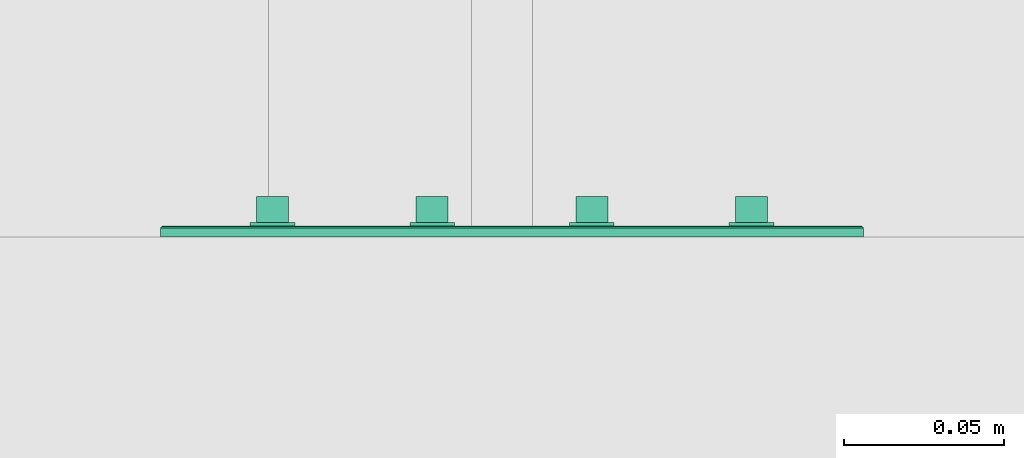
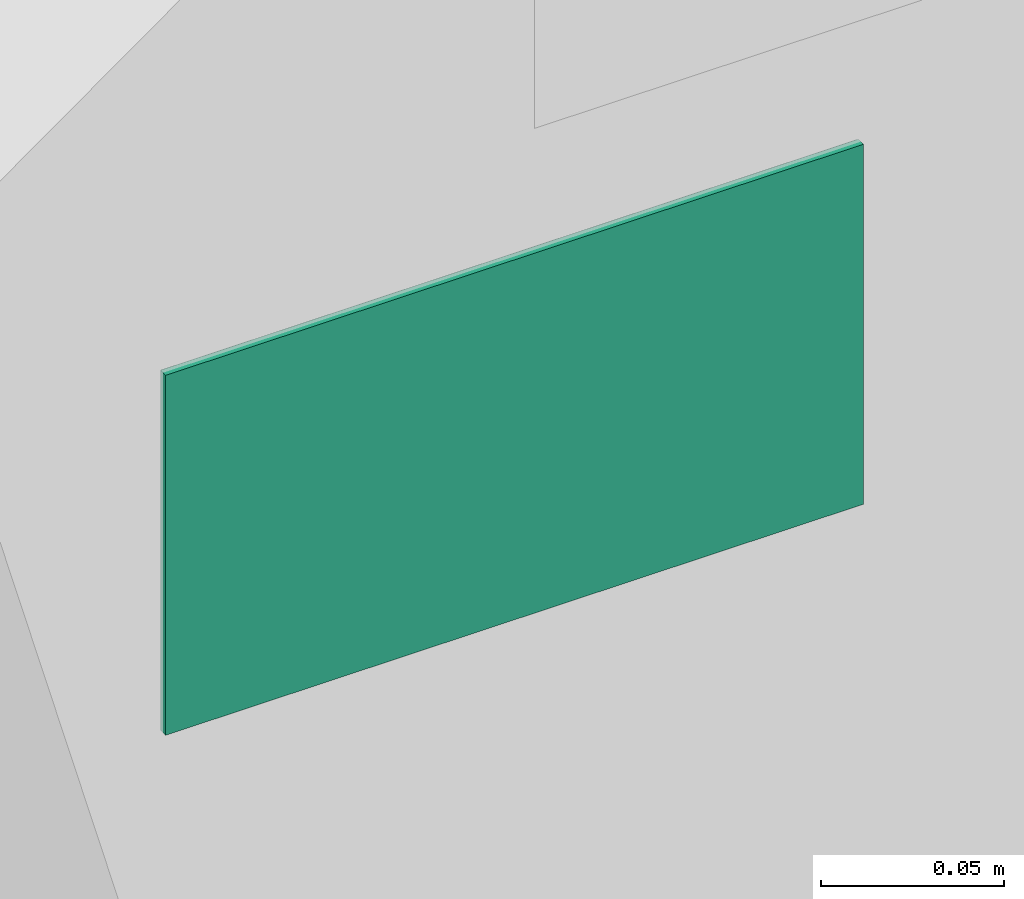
# One storey, part 17 of 103: 1 flow controller.
"""IFC2X3 building model written with IfcOpenShell, lengths in inches."""

from ifc_helpers import new_model, entity, si_unit, converted_unit, derived_unit, money_unit, direction, frame, origin_with_axes, place, context, subcontext, project, spatial, faceted_brep, source, transform, mapped, type_object, element, save


model = new_model("IFC2X3")

# Units and contexts
model_context = context("Model", 3, precision=0.00039370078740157, world=origin_with_axes(), true_north=direction((0.0, 1.0)))
plan_context = context("Plan", 3, precision=0.00039370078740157, world=origin_with_axes(), true_north=direction((0.0, 1.0)))
body_context = subcontext(model_context, "Body", "Model", "MODEL_VIEW")
ifc_project = project(units=[converted_unit("LENGTHUNIT", "INCH", entity("IfcPositiveLengthMeasure", 0.0254), si_unit("LENGTHUNIT", "METRE"), dimensions=[1, 0, 0, 0, 0, 0, 0]), converted_unit("AREAUNIT", "SQUARE_FOOT", entity("IfcPositiveLengthMeasure", 0.09290304), si_unit("AREAUNIT", "SQUARE_METRE"), dimensions=[2, 0, 0, 0, 0, 0, 0]), si_unit("PLANEANGLEUNIT", "RADIAN"), si_unit("SOLIDANGLEUNIT", "STERADIAN"), money_unit("USD"), converted_unit("TIMEUNIT", "Year", entity("IfcTimeMeasure", 31557600.0), si_unit("TIMEUNIT", "SECOND"), dimensions=[0, 0, 1, 0, 0, 0, 0]), si_unit("MASSUNIT", "GRAM", prefix="KILO"), si_unit("THERMODYNAMICTEMPERATUREUNIT", "DEGREE_CELSIUS"), si_unit("LUMINOUSINTENSITYUNIT", "LUMEN"), si_unit("ENERGYUNIT", "JOULE", prefix="MEGA"), derived_unit("SPECIFICHEATCAPACITYUNIT", [(si_unit("ENERGYUNIT", "JOULE"), 1), (si_unit("MASSUNIT", "GRAM", prefix="KILO"), -1), (si_unit("THERMODYNAMICTEMPERATUREUNIT", "KELVIN"), -1)])], contexts=[model_context, plan_context])

# Site, building, storey
site_placement = place(None, origin_with_axes())
site = spatial("IfcSite", under=ifc_project, at=site_placement, Name="Site", CompositionType="ELEMENT")
building_placement = place(site_placement, origin_with_axes())
building = spatial("IfcBuilding", under=site, at=building_placement, Name="Building", CompositionType="ELEMENT")
storey_placement = place(building_placement, frame((0.0, 0.0, 127.9999999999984), z_axis=(0.0, 0.0, 1.0), x_axis=(1.0, 0.0, 0.0)))
storey = spatial("IfcBuildingStorey", under=building, at=storey_placement, Name="Second Floor", CompositionType="ELEMENT", Elevation=128.0)

# Flow controller
switching_device_type = type_object("IfcSwitchingDeviceType", Name="Switch US", PredefinedType="NOTDEFINED")
shared_shape = source(origin_with_axes(), body_context, "Body", "Brep", [
    faceted_brep([(3.14960629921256, 0.0, -0.5905511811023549), (2.755905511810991, 0.0, -0.5905511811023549), (2.755905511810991, 0.0, 0.5905511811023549), (3.14960629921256, 0.0, 0.5905511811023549), (3.14960629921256, -0.1033464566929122, -0.5905511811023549), (2.755905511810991, -0.1033464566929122, -0.5905511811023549), (2.755905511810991, -0.1033464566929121, 0.157480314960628), (2.755905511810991, -0.4970472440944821, 0.1574803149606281), (2.755905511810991, -0.4970472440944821, 0.472440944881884), (2.755905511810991, -0.1033464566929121, 0.472440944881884), (2.755905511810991, -0.1033464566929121, 0.5905511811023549), (3.14960629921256, -0.103346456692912, 0.5905511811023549), (3.14960629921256, -0.1033464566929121, 0.472440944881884), (3.14960629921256, -0.4970472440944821, 0.472440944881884), (3.14960629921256, -0.4970472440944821, 0.1574803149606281), (3.14960629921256, -0.1033464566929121, 0.157480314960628)], [[[0, 1, 2, 3]], [[4, 5, 1, 0]], [[1, 5, 6, 7, 8, 9, 10, 2]], [[3, 2, 10, 11]], [[0, 3, 11, 12, 13, 14, 15, 4]], [[15, 6, 5, 4]], [[14, 7, 6, 15]], [[13, 8, 7, 14]], [[12, 9, 8, 13]], [[11, 10, 9, 12]]]),
    faceted_brep([(3.228346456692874, 0.0, -0.669291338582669), (3.228346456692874, -0.1771653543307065, -0.669291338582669), (2.677165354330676, -0.1771653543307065, -0.669291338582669), (2.677165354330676, 0.0, -0.669291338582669), (3.228346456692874, 0.0, 0.669291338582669), (3.228346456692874, -0.1771653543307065, 0.669291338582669), (2.677165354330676, -0.1771653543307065, 0.669291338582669), (3.14960629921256, -0.1771653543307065, -0.5905511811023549), (2.75590551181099, -0.1771653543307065, -0.5905511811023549), (2.75590551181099, -0.1771653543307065, 0.5905511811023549), (3.14960629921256, -0.1771653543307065, 0.5905511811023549), (2.677165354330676, 0.0, 0.669291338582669), (3.14960629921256, 0.0, -0.5905511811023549), (3.14960629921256, 0.0, 0.5905511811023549), (2.75590551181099, 0.0, 0.5905511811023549), (2.75590551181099, 0.0, -0.5905511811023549)], [[[0, 1, 2, 3]], [[4, 5, 1, 0]], [[1, 5, 6, 2], [7, 8, 9, 10]], [[3, 2, 6, 11]], [[0, 3, 11, 4], [12, 13, 14, 15]], [[11, 6, 5, 4]], [[15, 8, 7, 12]], [[14, 9, 8, 15]], [[13, 10, 9, 14]], [[12, 7, 10, 13]]]),
    faceted_brep([(1.968503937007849, -0.103346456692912, 2.362204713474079), (4.330708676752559, -0.103346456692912, 2.362204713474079), (4.330708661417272, 0.0, 2.36220472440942), (1.968503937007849, 0.0, 2.36220472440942), (1.968503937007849, -0.1122624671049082, 2.361030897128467), (4.329534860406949, -0.1122624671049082, 2.361030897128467), (4.330708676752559, -0.1033464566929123, -2.36220473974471), (4.330708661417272, 0.0, -2.36220472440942), (1.968503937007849, 0.0, -2.36220472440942), (2.677165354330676, 0.0, -0.669291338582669), (3.228346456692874, 0.0, -0.669291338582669), (3.228346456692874, 0.0, 0.669291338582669), (2.677165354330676, 0.0, 0.669291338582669), (1.968503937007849, -0.1033464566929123, -2.36220473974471), (1.968503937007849, -0.1122624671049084, -2.361030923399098), (1.968503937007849, -0.1277054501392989, -2.352114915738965), (1.968503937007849, -0.1366214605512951, -2.336671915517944), (1.968503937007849, -0.1377952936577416, -2.327755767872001), (1.968503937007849, -0.1377952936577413, 2.32775574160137), (1.968503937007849, -0.1366214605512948, 2.336671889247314), (1.968503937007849, -0.1277054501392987, 2.352114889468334), (4.320618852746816, -0.1277054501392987, 2.352114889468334), (4.329534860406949, -0.1122624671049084, -2.361030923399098), (2.677165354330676, -0.1377952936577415, -0.669291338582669), (3.228346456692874, -0.1377952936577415, -0.669291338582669), (3.228346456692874, -0.1377952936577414, 0.669291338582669), (2.677165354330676, -0.1377952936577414, 0.669291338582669), (4.320618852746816, -0.1277054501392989, -2.352114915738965), (4.305175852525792, -0.1366214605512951, -2.336671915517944), (4.296259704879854, -0.1377952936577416, -2.327755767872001), (4.296259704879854, -0.1377952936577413, 2.32775574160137), (4.305175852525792, -0.1366214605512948, 2.336671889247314)], [[[0, 1, 2, 3]], [[4, 5, 1, 0]], [[6, 7, 2, 1]], [[3, 2, 7, 8], [9, 10, 11, 12]], [[8, 13, 14, 15, 16, 17, 18, 19, 20, 4, 0, 3]], [[20, 21, 5, 4]], [[22, 6, 1, 5]], [[8, 7, 6, 13]], [[10, 9, 23, 24]], [[11, 10, 24, 25]], [[12, 11, 25, 26]], [[9, 12, 26, 23]], [[13, 6, 22, 14]], [[14, 22, 27, 15]], [[15, 27, 28, 16]], [[16, 28, 29, 17]], [[17, 29, 30, 18], [25, 24, 23, 26]], [[18, 30, 31, 19]], [[19, 31, 21, 20]], [[27, 22, 5, 21]], [[28, 27, 21, 31]], [[29, 28, 31, 30]]]),
    faceted_brep([(1.18110236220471, 0.0, -0.5905511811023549), (0.7874015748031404, 0.0, -0.5905511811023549), (0.7874015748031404, 0.0, 0.5905511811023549), (1.18110236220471, 0.0, 0.5905511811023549), (1.18110236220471, -0.1033464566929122, -0.5905511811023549), (0.7874015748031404, -0.1033464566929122, -0.5905511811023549), (0.7874015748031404, -0.1033464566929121, 0.157480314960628), (0.7874015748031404, -0.4970472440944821, 0.1574803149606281), (0.7874015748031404, -0.4970472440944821, 0.472440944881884), (0.7874015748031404, -0.1033464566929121, 0.472440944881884), (0.7874015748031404, -0.1033464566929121, 0.5905511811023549), (1.18110236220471, -0.103346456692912, 0.5905511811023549), (1.18110236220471, -0.1033464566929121, 0.472440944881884), (1.18110236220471, -0.4970472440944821, 0.472440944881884), (1.18110236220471, -0.4970472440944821, 0.1574803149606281), (1.18110236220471, -0.1033464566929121, 0.157480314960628)], [[[0, 1, 2, 3]], [[4, 5, 1, 0]], [[1, 5, 6, 7, 8, 9, 10, 2]], [[3, 2, 10, 11]], [[0, 3, 11, 12, 13, 14, 15, 4]], [[15, 6, 5, 4]], [[14, 7, 6, 15]], [[13, 8, 7, 14]], [[12, 9, 8, 13]], [[11, 10, 9, 12]]]),
    faceted_brep([(1.259842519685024, 0.0, -0.669291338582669), (1.259842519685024, -0.1771653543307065, -0.669291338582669), (0.7086614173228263, -0.1771653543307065, -0.669291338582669), (0.7086614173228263, 0.0, -0.669291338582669), (1.259842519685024, 0.0, 0.669291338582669), (1.259842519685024, -0.1771653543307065, 0.669291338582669), (0.7086614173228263, -0.1771653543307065, 0.669291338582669), (1.18110236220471, -0.1771653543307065, -0.5905511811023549), (0.7874015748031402, -0.1771653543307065, -0.5905511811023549), (0.7874015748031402, -0.1771653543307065, 0.5905511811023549), (1.18110236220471, -0.1771653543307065, 0.5905511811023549), (0.7086614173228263, 0.0, 0.669291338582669), (1.18110236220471, 0.0, -0.5905511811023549), (1.18110236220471, 0.0, 0.5905511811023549), (0.7874015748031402, 0.0, 0.5905511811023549), (0.7874015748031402, 0.0, -0.5905511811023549)], [[[0, 1, 2, 3]], [[4, 5, 1, 0]], [[1, 5, 6, 2], [7, 8, 9, 10]], [[3, 2, 6, 11]], [[0, 3, 11, 4], [12, 13, 14, 15]], [[11, 6, 5, 4]], [[15, 8, 7, 12]], [[14, 9, 8, 15]], [[13, 10, 9, 14]], [[12, 7, 10, 13]]]),
    faceted_brep([(1.968503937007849, 0.0, -2.36220472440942), (0.0, 0.0, -2.36220472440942), (0.0, 0.0, 2.36220472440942), (1.968503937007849, 0.0, 2.36220472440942), (0.7086614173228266, 0.0, 0.669291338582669), (0.7086614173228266, 0.0, -0.669291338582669), (1.259842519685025, 0.0, -0.669291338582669), (1.259842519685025, 0.0, 0.669291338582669), (1.968503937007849, -0.1033464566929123, -2.36220473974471), (0.0, -0.1033464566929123, -2.36220473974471), (0.0, -0.1277054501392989, -2.352114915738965), (0.0, -0.1366214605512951, -2.336671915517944), (0.0, -0.1377952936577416, -2.327755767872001), (0.0, -0.1377952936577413, 2.32775574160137), (0.0, -0.1366214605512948, 2.336671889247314), (0.0, -0.1277054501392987, 2.352114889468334), (0.0, -0.1122624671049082, 2.361030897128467), (0.0, -0.103346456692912, 2.362204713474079), (0.0, -0.1122624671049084, -2.361030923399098), (1.968503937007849, -0.103346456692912, 2.362204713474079), (1.968503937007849, -0.1122624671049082, 2.361030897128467), (1.968503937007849, -0.1277054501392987, 2.352114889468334), (1.968503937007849, -0.1366214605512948, 2.336671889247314), (1.968503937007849, -0.1377952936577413, 2.32775574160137), (1.968503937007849, -0.1377952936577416, -2.327755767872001), (1.968503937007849, -0.1366214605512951, -2.336671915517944), (1.968503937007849, -0.1277054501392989, -2.352114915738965), (1.968503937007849, -0.1122624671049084, -2.361030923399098), (0.7086614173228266, -0.1377952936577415, -0.669291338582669), (0.7086614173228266, -0.1377952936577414, 0.669291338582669), (1.259842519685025, -0.1377952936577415, -0.669291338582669), (1.259842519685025, -0.1377952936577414, 0.669291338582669)], [[[0, 1, 2, 3], [4, 5, 6, 7]], [[8, 9, 1, 0]], [[10, 11, 12, 13, 14, 15, 16, 17, 2, 1, 9, 18]], [[3, 2, 17, 19]], [[19, 20, 21, 22, 23, 24, 25, 26, 27, 8, 0, 3]], [[28, 5, 4, 29]], [[30, 6, 5, 28]], [[31, 7, 6, 30]], [[29, 4, 7, 31]], [[27, 18, 9, 8]], [[25, 11, 10, 26]], [[24, 12, 11, 25]], [[23, 13, 12, 24], [29, 31, 30, 28]], [[22, 14, 13, 23]], [[21, 15, 14, 22]], [[20, 16, 15, 21]], [[19, 17, 16, 20]], [[26, 10, 18, 27]]]),
    faceted_brep([(-0.7874015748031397, 0.0, -0.5905511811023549), (-1.18110236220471, 0.0, -0.5905511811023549), (-1.18110236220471, 0.0, 0.5905511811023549), (-0.7874015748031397, 0.0, 0.5905511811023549), (-0.7874015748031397, -0.1033464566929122, -0.5905511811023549), (-1.18110236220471, -0.1033464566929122, -0.5905511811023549), (-1.18110236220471, -0.1033464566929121, 0.157480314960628), (-1.18110236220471, -0.4970472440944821, 0.1574803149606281), (-1.18110236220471, -0.4970472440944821, 0.472440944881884), (-1.18110236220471, -0.1033464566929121, 0.472440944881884), (-1.18110236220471, -0.1033464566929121, 0.5905511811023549), (-0.7874015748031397, -0.103346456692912, 0.5905511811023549), (-0.7874015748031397, -0.1033464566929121, 0.472440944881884), (-0.7874015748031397, -0.4970472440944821, 0.472440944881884), (-0.7874015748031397, -0.4970472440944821, 0.1574803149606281), (-0.7874015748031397, -0.1033464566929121, 0.157480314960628)], [[[0, 1, 2, 3]], [[4, 5, 1, 0]], [[1, 5, 6, 7, 8, 9, 10, 2]], [[3, 2, 10, 11]], [[0, 3, 11, 12, 13, 14, 15, 4]], [[15, 6, 5, 4]], [[14, 7, 6, 15]], [[13, 8, 7, 14]], [[12, 9, 8, 13]], [[11, 10, 9, 12]]]),
    faceted_brep([(-0.7086614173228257, 0.0, -0.669291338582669), (-0.7086614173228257, -0.1771653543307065, -0.669291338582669), (-1.259842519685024, -0.1771653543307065, -0.669291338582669), (-1.259842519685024, 0.0, -0.669291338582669), (-0.7086614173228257, 0.0, 0.669291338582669), (-0.7086614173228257, -0.1771653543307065, 0.669291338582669), (-1.259842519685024, -0.1771653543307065, 0.669291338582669), (-0.7874015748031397, -0.1771653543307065, -0.5905511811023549), (-1.18110236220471, -0.1771653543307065, -0.5905511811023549), (-1.18110236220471, -0.1771653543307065, 0.5905511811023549), (-0.7874015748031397, -0.1771653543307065, 0.5905511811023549), (-1.259842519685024, 0.0, 0.669291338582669), (-0.7874015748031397, 0.0, -0.5905511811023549), (-0.7874015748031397, 0.0, 0.5905511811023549), (-1.18110236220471, 0.0, 0.5905511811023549), (-1.18110236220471, 0.0, -0.5905511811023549)], [[[0, 1, 2, 3]], [[4, 5, 1, 0]], [[1, 5, 6, 2], [7, 8, 9, 10]], [[3, 2, 6, 11]], [[0, 3, 11, 4], [12, 13, 14, 15]], [[11, 6, 5, 4]], [[15, 8, 7, 12]], [[14, 9, 8, 15]], [[13, 10, 9, 14]], [[12, 7, 10, 13]]]),
    faceted_brep([(0.0, 0.0, -2.36220472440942), (-1.968503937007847, 0.0, -2.36220472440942), (-1.968503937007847, 0.0, 2.36220472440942), (0.0, 0.0, 2.36220472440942), (-1.259842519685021, 0.0, 0.669291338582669), (-1.259842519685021, 0.0, -0.669291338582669), (-0.7086614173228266, 0.0, -0.669291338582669), (-0.7086614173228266, 0.0, 0.669291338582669), (0.0, -0.1033464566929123, -2.36220473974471), (-1.968503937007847, -0.1033464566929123, -2.36220473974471), (-1.968503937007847, -0.1277054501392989, -2.352114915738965), (-1.968503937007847, -0.1366214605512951, -2.336671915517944), (-1.968503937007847, -0.1377952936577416, -2.327755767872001), (-1.968503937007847, -0.1377952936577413, 2.32775574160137), (-1.968503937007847, -0.1366214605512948, 2.336671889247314), (-1.968503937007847, -0.1277054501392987, 2.352114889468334), (-1.968503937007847, -0.1122624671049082, 2.361030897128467), (-1.968503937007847, -0.103346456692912, 2.362204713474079), (-1.968503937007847, -0.1122624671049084, -2.361030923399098), (0.0, -0.103346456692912, 2.362204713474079), (0.0, -0.1122624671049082, 2.361030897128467), (0.0, -0.1277054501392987, 2.352114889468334), (0.0, -0.1366214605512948, 2.336671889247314), (0.0, -0.1377952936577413, 2.32775574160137), (0.0, -0.1377952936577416, -2.327755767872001), (0.0, -0.1366214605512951, -2.336671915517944), (0.0, -0.1277054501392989, -2.352114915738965), (0.0, -0.1122624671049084, -2.361030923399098), (-1.259842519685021, -0.1377952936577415, -0.669291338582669), (-1.259842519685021, -0.1377952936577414, 0.669291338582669), (-0.7086614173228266, -0.1377952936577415, -0.669291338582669), (-0.7086614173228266, -0.1377952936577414, 0.669291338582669)], [[[0, 1, 2, 3], [4, 5, 6, 7]], [[8, 9, 1, 0]], [[10, 11, 12, 13, 14, 15, 16, 17, 2, 1, 9, 18]], [[3, 2, 17, 19]], [[19, 20, 21, 22, 23, 24, 25, 26, 27, 8, 0, 3]], [[28, 5, 4, 29]], [[30, 6, 5, 28]], [[31, 7, 6, 30]], [[29, 4, 7, 31]], [[27, 18, 9, 8]], [[25, 11, 10, 26]], [[24, 12, 11, 25]], [[23, 13, 12, 24], [29, 31, 30, 28]], [[22, 14, 13, 23]], [[21, 15, 14, 22]], [[20, 16, 15, 21]], [[19, 17, 16, 20]], [[26, 10, 18, 27]]]),
    faceted_brep([(-2.755905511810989, 0.0, -0.5905511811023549), (-3.14960629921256, 0.0, -0.5905511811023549), (-3.14960629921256, 0.0, 0.5905511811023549), (-2.755905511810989, 0.0, 0.5905511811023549), (-2.755905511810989, -0.1033464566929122, -0.5905511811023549), (-3.14960629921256, -0.1033464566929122, -0.5905511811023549), (-3.14960629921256, -0.1033464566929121, 0.157480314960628), (-3.14960629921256, -0.4970472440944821, 0.1574803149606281), (-3.14960629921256, -0.4970472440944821, 0.472440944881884), (-3.14960629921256, -0.1033464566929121, 0.472440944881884), (-3.14960629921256, -0.1033464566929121, 0.5905511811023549), (-2.755905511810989, -0.103346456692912, 0.5905511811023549), (-2.755905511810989, -0.1033464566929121, 0.472440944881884), (-2.755905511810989, -0.4970472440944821, 0.472440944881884), (-2.755905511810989, -0.4970472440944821, 0.1574803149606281), (-2.755905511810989, -0.1033464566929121, 0.157480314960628)], [[[0, 1, 2, 3]], [[4, 5, 1, 0]], [[1, 5, 6, 7, 8, 9, 10, 2]], [[3, 2, 10, 11]], [[0, 3, 11, 12, 13, 14, 15, 4]], [[15, 6, 5, 4]], [[14, 7, 6, 15]], [[13, 8, 7, 14]], [[12, 9, 8, 13]], [[11, 10, 9, 12]]]),
    faceted_brep([(-2.677165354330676, 0.0, -0.669291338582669), (-2.677165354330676, -0.1771653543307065, -0.669291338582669), (-3.228346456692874, -0.1771653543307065, -0.669291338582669), (-3.228346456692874, 0.0, -0.669291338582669), (-2.677165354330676, 0.0, 0.669291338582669), (-2.677165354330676, -0.1771653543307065, 0.669291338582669), (-3.228346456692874, -0.1771653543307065, 0.669291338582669), (-2.75590551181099, -0.1771653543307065, -0.5905511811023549), (-3.14960629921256, -0.1771653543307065, -0.5905511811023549), (-3.14960629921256, -0.1771653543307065, 0.5905511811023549), (-2.75590551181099, -0.1771653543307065, 0.5905511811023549), (-3.228346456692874, 0.0, 0.669291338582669), (-2.75590551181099, 0.0, -0.5905511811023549), (-2.75590551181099, 0.0, 0.5905511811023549), (-3.14960629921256, 0.0, 0.5905511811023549), (-3.14960629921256, 0.0, -0.5905511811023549)], [[[0, 1, 2, 3]], [[4, 5, 1, 0]], [[1, 5, 6, 2], [7, 8, 9, 10]], [[3, 2, 6, 11]], [[0, 3, 11, 4], [12, 13, 14, 15]], [[11, 6, 5, 4]], [[15, 8, 7, 12]], [[14, 9, 8, 15]], [[13, 10, 9, 14]], [[12, 7, 10, 13]]]),
    faceted_brep([(-1.968503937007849, 0.0, -2.36220472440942), (-4.330708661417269, 0.0, -2.36220472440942), (-4.330708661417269, 0.0, 2.36220472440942), (-1.968503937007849, 0.0, 2.36220472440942), (-3.228346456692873, 0.0, -0.669291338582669), (-2.677165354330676, 0.0, -0.669291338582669), (-2.677165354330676, 0.0, 0.669291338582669), (-3.228346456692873, 0.0, 0.669291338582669), (-1.968503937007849, -0.1033464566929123, -2.36220473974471), (-4.330708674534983, -0.1033464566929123, -2.36220473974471), (-4.330708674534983, -0.103346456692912, 2.362204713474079), (-1.968503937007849, -0.103346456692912, 2.362204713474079), (-1.968503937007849, -0.1122624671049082, 2.361030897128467), (-1.968503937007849, -0.1277054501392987, 2.352114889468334), (-1.968503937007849, -0.1366214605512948, 2.336671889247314), (-1.968503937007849, -0.1377952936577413, 2.32775574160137), (-1.968503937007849, -0.1377952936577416, -2.327755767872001), (-1.968503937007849, -0.1366214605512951, -2.336671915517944), (-1.968503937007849, -0.1277054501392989, -2.352114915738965), (-1.968503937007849, -0.1122624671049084, -2.361030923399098), (-3.228346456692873, -0.1377952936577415, -0.669291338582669), (-2.677165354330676, -0.1377952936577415, -0.669291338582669), (-2.677165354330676, -0.1377952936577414, 0.669291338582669), (-3.228346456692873, -0.1377952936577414, 0.669291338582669), (-4.329534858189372, -0.1122624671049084, -2.361030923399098), (-4.329534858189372, -0.1122624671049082, 2.361030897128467), (-4.32061885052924, -0.1277054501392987, 2.352114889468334), (-4.30517585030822, -0.1366214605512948, 2.336671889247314), (-4.296259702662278, -0.1377952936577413, 2.32775574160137), (-4.296259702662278, -0.1377952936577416, -2.327755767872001), (-4.30517585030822, -0.1366214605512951, -2.336671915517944), (-4.32061885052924, -0.1277054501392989, -2.352114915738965)], [[[0, 1, 2, 3], [4, 5, 6, 7]], [[8, 9, 1, 0]], [[10, 2, 1, 9]], [[3, 2, 10, 11]], [[11, 12, 13, 14, 15, 16, 17, 18, 19, 8, 0, 3]], [[5, 4, 20, 21]], [[6, 5, 21, 22]], [[7, 6, 22, 23]], [[4, 7, 23, 20]], [[19, 24, 9, 8]], [[25, 10, 9, 24]], [[11, 10, 25, 12]], [[12, 25, 26, 13]], [[13, 26, 27, 14]], [[14, 27, 28, 15]], [[15, 28, 29, 16], [22, 21, 20, 23]], [[16, 29, 30, 17]], [[17, 30, 31, 18]], [[18, 31, 24, 19]], [[26, 25, 24, 31]], [[27, 26, 31, 30]], [[28, 27, 30, 29]]]),
])
flow_controller_placement = place(storey_placement, frame((216.9999999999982, 205.4999999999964, 42.99999999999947), z_axis=(0.0, 0.0, 1.0), x_axis=(-1.0, 0.0, 0.0)))
element("IfcFlowController", 1, at=flow_controller_placement, inside=storey, type_object=switching_device_type, Name="OBJ-09", context=body_context, shape_type="MappedRepresentation", body=[
    mapped(shared_shape, transform((0.0, 0.0, 0.0))),
])

save(model, "model.ifc")
